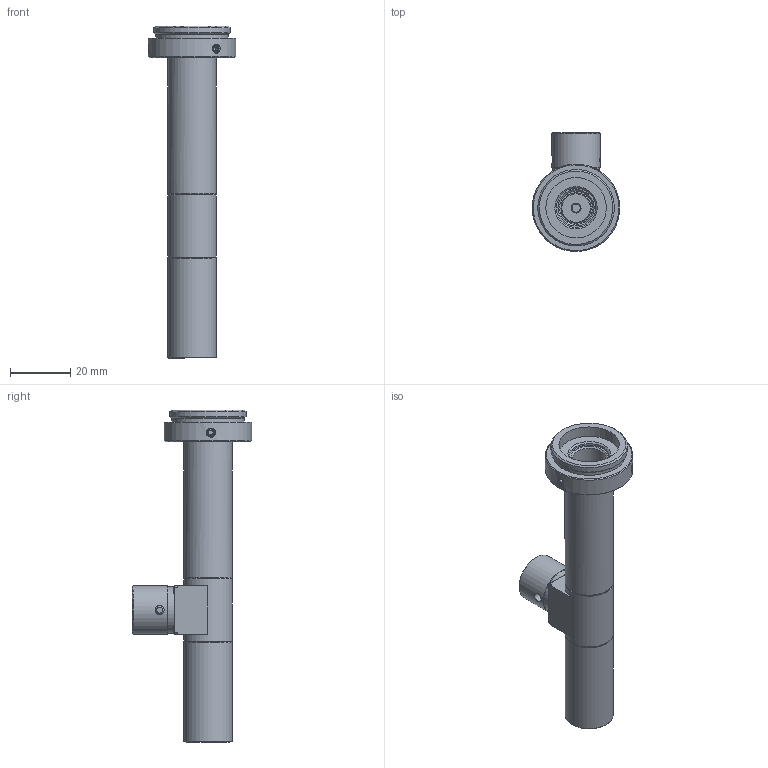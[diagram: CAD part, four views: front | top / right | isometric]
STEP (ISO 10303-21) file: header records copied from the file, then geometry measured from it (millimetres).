
FILE_DESCRIPTION(('STEP AP214'),'1');
FILE_NAME('RTK-3F-110.stp','2026-03-17T05:59:19',(' '),(' '),'Spatial InterOp 3D',' ',' ');
FILE_SCHEMA(('AUTOMOTIVE_DESIGN { 1 0 10303 214 1 1 1 1 }'));
Length unit declared in the file: metre
Products named in the file (2): RTK-3F-110; Component1
Assembly tree (1 placements, depth 2):
  RTK-3F-110
    Component1
Bounding box: 28.97 x 39.47 x 109.93 mm (x, y, z)
Volume: 16302 mm3; surface area: 15012.4 mm2
Topology: 1 solids, 15 shells, 413 faces, 991 edges, 640 vertices
Faces by surface type: plane 192, cone 120, cylinder 81, sphere 9, torus 8, bspline 3
Full cylindrical faces by diameter (mm): 1.7 x8, 1.8 x4, 2.5 x6, 2.7 x1, 3 x3, 6.5 x1, 7.5 x1, 8 x2, 9 x1, 10 x2, 11 x1, 12 x2, 12.7 x1, 13 x2, 13.4 x1, 13.5 x4, 13.7 x1, 13.9 x1, 14 x2, 14.2 x3, 14.7 x1, 15.5 x1, 16 x6, 20 x1, 24.12 x1, 25.32 x1, 29 x1
Entity records: 14903 total; most frequent: CARTESIAN_POINT 2737, DIRECTION 1910, ORIENTED_EDGE 1588, AXIS2_PLACEMENT_3D 811, EDGE_CURVE 794, EDGE_LOOP 595, VERTEX_POINT 578, FACE_OUTER_BOUND 482
